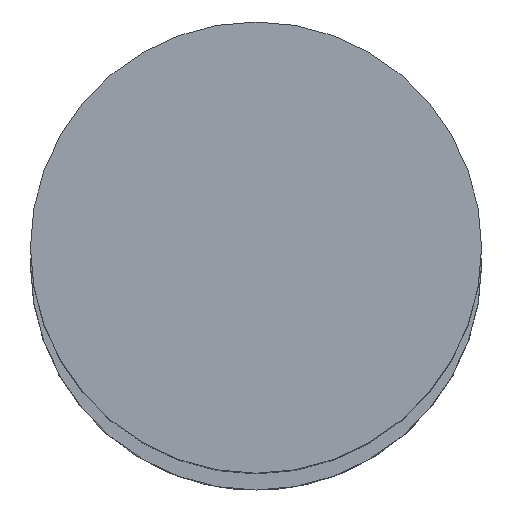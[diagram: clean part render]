
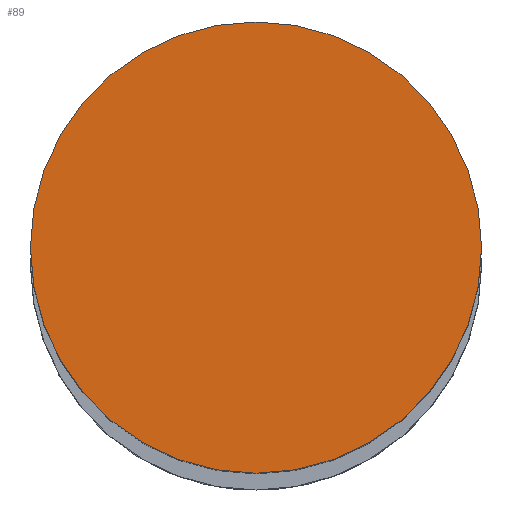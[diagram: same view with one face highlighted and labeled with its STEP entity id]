
A CAD part, top view. The second image highlights one B-rep face of the part: STEP entity #89.
In plain terms, the highlighted planar face has unit normal (0, 0, 1).
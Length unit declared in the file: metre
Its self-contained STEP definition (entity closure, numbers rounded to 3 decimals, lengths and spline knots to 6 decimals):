
#89=ADVANCED_FACE('0:129',(#177),#178,.T.);
#177=FACE_OUTER_BOUND('',#269,.T.);
#178=PLANE('',#270);
#269=EDGE_LOOP('',(#430,#431));
#270=AXIS2_PLACEMENT_3D('',#432,#433,#434);
#430=ORIENTED_EDGE('',*,*,#503,.F.);
#431=ORIENTED_EDGE('',*,*,#549,.F.);
#432=CARTESIAN_POINT('',(0.,0.,0.269));
#433=DIRECTION('',(0.0,0.0,1.0));
#434=DIRECTION('',(1.0,0.0,0.0));
#503=EDGE_CURVE('13:581',#587,#583,#589,.F.);
#549=EDGE_CURVE('',#583,#587,#656,.F.);
#583=VERTEX_POINT('',#707);
#587=VERTEX_POINT('',#712);
#589=CIRCLE('',#715,0.008);
#656=CIRCLE('',#796,0.008);
#707=CARTESIAN_POINT('',(0.00789,0.000133,0.269));
#712=CARTESIAN_POINT('',(-0.00811,0.000133,0.269));
#715=AXIS2_PLACEMENT_3D('',#856,#857,#858);
#796=AXIS2_PLACEMENT_3D('',#924,#925,#926);
#856=CARTESIAN_POINT('',(-0.00011,0.000133,0.269));
#857=DIRECTION('',(0.0,0.0,1.0));
#858=DIRECTION('',(1.0,0.0,0.0));
#924=CARTESIAN_POINT('',(-0.00011,0.000133,0.269));
#925=DIRECTION('',(0.0,0.0,1.0));
#926=DIRECTION('',(1.0,0.0,0.0));
